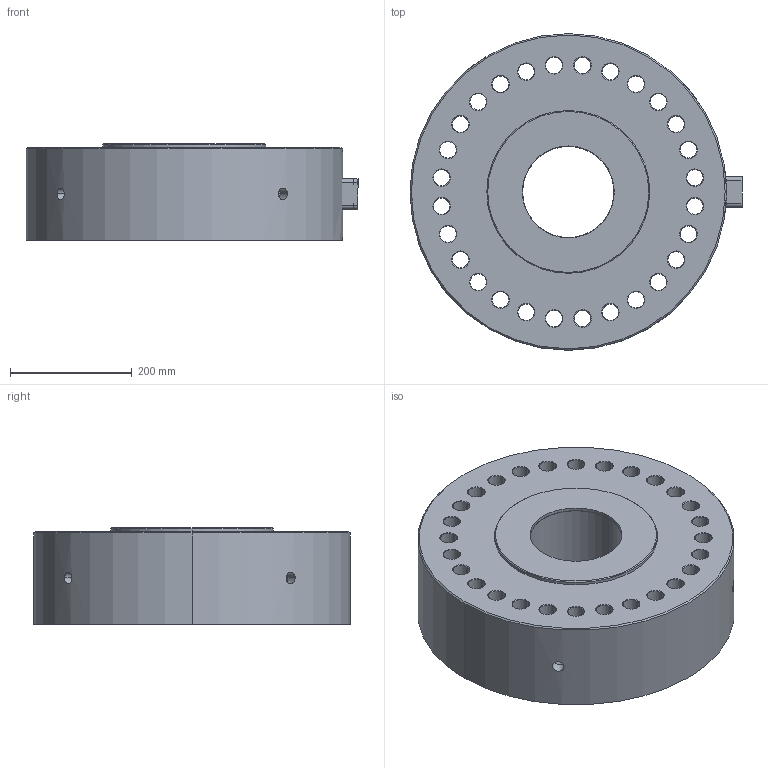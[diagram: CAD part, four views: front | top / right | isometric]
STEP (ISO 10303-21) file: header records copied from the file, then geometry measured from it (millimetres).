
FILE_DESCRIPTION (( 'STEP AP203' ), '1' );
FILE_NAME ('Interface 1280-4.5MN.STEP', '2011-06-07T17:48:07', ( ' ' ), ( '' ), 'SwSTEP 2.0', 'SolidWorks 2002349', '' );
FILE_SCHEMA (( 'CONFIG_CONTROL_DESIGN' ));
Length unit declared in the file: inch
Products named in the file (1): Interface 1280-4.5MN
Bounding box: 546.1 x 520.7 x 158.75 mm (x, y, z)
Volume: 27472884.7 mm3; surface area: 1062544.5 mm2
Topology: 1 solids, 1 shells, 387 faces, 972 edges, 626 vertices
Faces by surface type: cylinder 158, plane 118, cone 78, bspline 30, sphere 3
Entity records: 12960 total; most frequent: CARTESIAN_POINT 3564, DIRECTION 1977, ORIENTED_EDGE 1928, EDGE_CURVE 964, AXIS2_PLACEMENT_3D 785, VERTEX_POINT 626, EDGE_LOOP 492, CIRCLE 427
